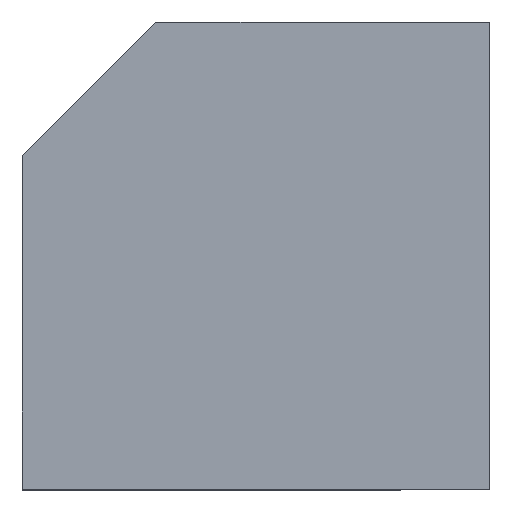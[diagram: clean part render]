
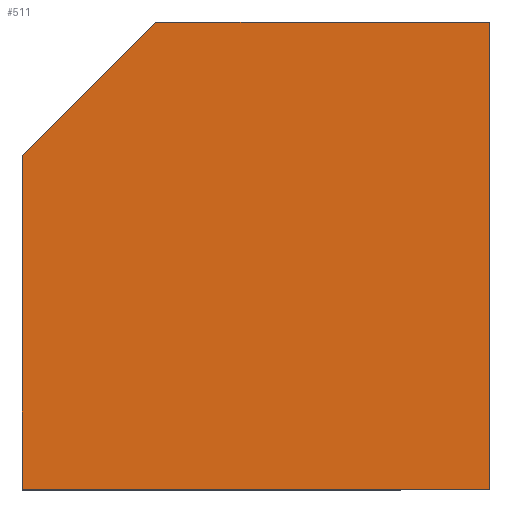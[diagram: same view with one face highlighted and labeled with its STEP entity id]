
A CAD part, top view. The second image highlights one B-rep face of the part: STEP entity #511.
In plain terms, the highlighted planar face has unit normal (0, 0, 1).
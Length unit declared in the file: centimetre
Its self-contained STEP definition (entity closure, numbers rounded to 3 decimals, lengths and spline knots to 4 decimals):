
#47 = DIRECTION ( 'NONE',  ( 0., -1., 0. ) ) ;
#57 = EDGE_CURVE ( 'NONE', #247, #395, #202, .T. ) ;
#58 = LINE ( 'NONE', #136, #92 ) ;
#67 = EDGE_LOOP ( 'NONE', ( #357, #329, #515, #446, #407 ) ) ;
#71 = VERTEX_POINT ( 'NONE', #171 ) ;
#73 = CARTESIAN_POINT ( 'NONE',  ( 0., 1000., 1000. ) ) ;
#92 = VECTOR ( 'NONE', #301, 100. ) ;
#98 = CARTESIAN_POINT ( 'NONE',  ( -357.2403, 357.2403, 1000. ) ) ;
#105 = VERTEX_POINT ( 'NONE', #291 ) ;
#113 = DIRECTION ( 'NONE',  ( -1., 0., 0. ) ) ;
#136 = CARTESIAN_POINT ( 'NONE',  ( 1000., 1000., 1000. ) ) ;
#154 = LINE ( 'NONE', #196, #483 ) ;
#161 = DIRECTION ( 'NONE',  ( 1., 0., 0. ) ) ;
#169 = PLANE ( 'NONE',  #198 ) ;
#171 = CARTESIAN_POINT ( 'NONE',  ( 285.5193, 1000., 1000. ) ) ;
#178 = FACE_OUTER_BOUND ( 'NONE', #67, .T. ) ;
#187 = LINE ( 'NONE', #73, #345 ) ;
#196 = CARTESIAN_POINT ( 'NONE',  ( 0., 0., 1000. ) ) ;
#198 = AXIS2_PLACEMENT_3D ( 'NONE', #295, #500, #161 ) ;
#202 = LINE ( 'NONE', #418, #207 ) ;
#207 = VECTOR ( 'NONE', #47, 100. ) ;
#237 = EDGE_CURVE ( 'NONE', #105, #363, #58, .T. ) ;
#239 = CARTESIAN_POINT ( 'NONE',  ( 1000., 1000., 1000. ) ) ;
#247 = VERTEX_POINT ( 'NONE', #355 ) ;
#270 = EDGE_CURVE ( 'NONE', #71, #247, #475, .T. ) ;
#283 = CARTESIAN_POINT ( 'NONE',  ( 0., 0., 1000. ) ) ;
#291 = CARTESIAN_POINT ( 'NONE',  ( 1000., 0., 1000. ) ) ;
#295 = CARTESIAN_POINT ( 'NONE',  ( 0., 0., 1000. ) ) ;
#301 = DIRECTION ( 'NONE',  ( 0., 1., 0. ) ) ;
#316 = EDGE_CURVE ( 'NONE', #395, #105, #154, .T. ) ;
#329 = ORIENTED_EDGE ( 'NONE', *, *, #270, .T. ) ;
#345 = VECTOR ( 'NONE', #113, 100. ) ;
#354 = VECTOR ( 'NONE', #445, 100. ) ;
#355 = CARTESIAN_POINT ( 'NONE',  ( 0., 714.4807, 1000. ) ) ;
#356 = EDGE_CURVE ( 'NONE', #363, #71, #187, .T. ) ;
#357 = ORIENTED_EDGE ( 'NONE', *, *, #356, .T. ) ;
#363 = VERTEX_POINT ( 'NONE', #239 ) ;
#395 = VERTEX_POINT ( 'NONE', #283 ) ;
#407 = ORIENTED_EDGE ( 'NONE', *, *, #237, .T. ) ;
#418 = CARTESIAN_POINT ( 'NONE',  ( 0., 1000., 1000. ) ) ;
#445 = DIRECTION ( 'NONE',  ( -0.707, -0.707, 0. ) ) ;
#446 = ORIENTED_EDGE ( 'NONE', *, *, #316, .T. ) ;
#475 = LINE ( 'NONE', #98, #354 ) ;
#483 = VECTOR ( 'NONE', #494, 100. ) ;
#494 = DIRECTION ( 'NONE',  ( 1., 0., 0. ) ) ;
#500 = DIRECTION ( 'NONE',  ( 0., 0., 1. ) ) ;
#511 = ADVANCED_FACE ( 'NONE', ( #178 ), #169, .T. ) ;
#515 = ORIENTED_EDGE ( 'NONE', *, *, #57, .T. ) ;
